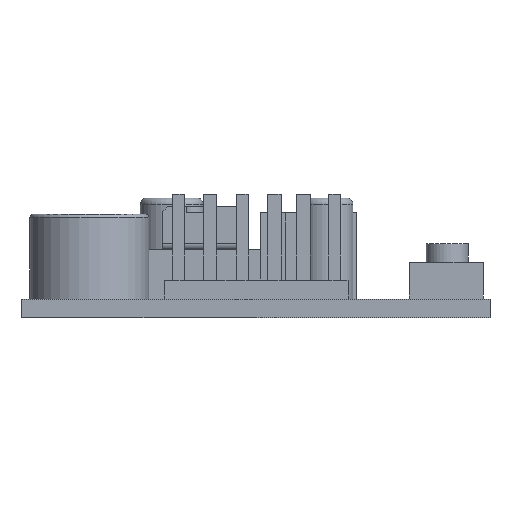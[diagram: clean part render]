
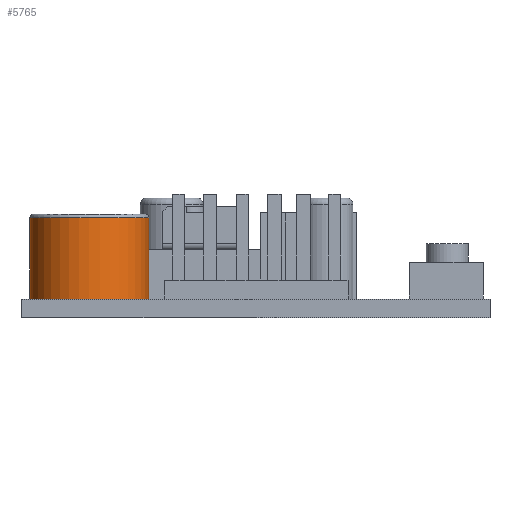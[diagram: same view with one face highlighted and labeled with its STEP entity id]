
A CAD part, front view. The second image highlights one B-rep face of the part: STEP entity #5765.
In plain terms, the highlighted cylindrical face has radius 4.83 mm (diameter 9.659 mm), a full revolution.
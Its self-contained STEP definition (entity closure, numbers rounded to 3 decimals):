
#1319 = PLANE('',#1320);
#1320 = AXIS2_PLACEMENT_3D('',#1321,#1322,#1323);
#1321 = CARTESIAN_POINT('',(0.,21.,1.5));
#1322 = DIRECTION('',(0.,0.,-1.));
#1323 = DIRECTION('',(-1.,0.,0.));
#2801 = EDGE_CURVE('',#2802,#2802,#2804,.T.);
#2802 = VERTEX_POINT('',#2803);
#2803 = CARTESIAN_POINT('',(-8.707,11.958,1.5));
#2804 = SURFACE_CURVE('',#2805,(#2810,#2821),.PCURVE_S1.);
#2805 = CIRCLE('',#2806,4.83);
#2806 = AXIS2_PLACEMENT_3D('',#2807,#2808,#2809);
#2807 = CARTESIAN_POINT('',(-13.537,11.958,1.5));
#2808 = DIRECTION('',(0.,0.,1.));
#2809 = DIRECTION('',(1.,0.,0.));
#2810 = PCURVE('',#1319,#2811);
#2811 = DEFINITIONAL_REPRESENTATION('',(#2812),#2820);
#2812 = ( BOUNDED_CURVE() B_SPLINE_CURVE(2,(#2813,#2814,#2815,#2816,
#2817,#2818,#2819),.UNSPECIFIED.,.T.,.F.) B_SPLINE_CURVE_WITH_KNOTS((1,2
    ,2,2,2,1),(-2.094,0.,2.094,4.189,
6.283,8.378),.UNSPECIFIED.) CURVE() 
GEOMETRIC_REPRESENTATION_ITEM() RATIONAL_B_SPLINE_CURVE((1.,0.5,1.,0.5,
1.,0.5,1.)) REPRESENTATION_ITEM('') );
#2813 = CARTESIAN_POINT('',(8.707,-9.042));
#2814 = CARTESIAN_POINT('',(8.707,-0.676));
#2815 = CARTESIAN_POINT('',(15.952,-4.859));
#2816 = CARTESIAN_POINT('',(23.197,-9.042));
#2817 = CARTESIAN_POINT('',(15.952,-13.224));
#2818 = CARTESIAN_POINT('',(8.707,-17.407));
#2819 = CARTESIAN_POINT('',(8.707,-9.042));
#2820 = ( GEOMETRIC_REPRESENTATION_CONTEXT(2) 
PARAMETRIC_REPRESENTATION_CONTEXT() REPRESENTATION_CONTEXT('2D SPACE',''
  ) );
#2821 = PCURVE('',#2822,#2827);
#2822 = CYLINDRICAL_SURFACE('',#2823,4.83);
#2823 = AXIS2_PLACEMENT_3D('',#2824,#2825,#2826);
#2824 = CARTESIAN_POINT('',(-13.537,11.958,1.5));
#2825 = DIRECTION('',(0.,0.,-1.));
#2826 = DIRECTION('',(1.,0.,0.));
#2827 = DEFINITIONAL_REPRESENTATION('',(#2828),#2832);
#2828 = LINE('',#2829,#2830);
#2829 = CARTESIAN_POINT('',(6.283,0.));
#2830 = VECTOR('',#2831,1.);
#2831 = DIRECTION('',(-1.,0.));
#2832 = ( GEOMETRIC_REPRESENTATION_CONTEXT(2) 
PARAMETRIC_REPRESENTATION_CONTEXT() REPRESENTATION_CONTEXT('2D SPACE',''
  ) );
#5765 = ADVANCED_FACE('',(#5766),#2822,.T.);
#5766 = FACE_BOUND('',#5767,.T.);
#5767 = EDGE_LOOP('',(#5768,#5797,#5818,#5819));
#5768 = ORIENTED_EDGE('',*,*,#5769,.F.);
#5769 = EDGE_CURVE('',#5770,#5770,#5772,.T.);
#5770 = VERTEX_POINT('',#5771);
#5771 = CARTESIAN_POINT('',(-8.707,11.958,8.1));
#5772 = SURFACE_CURVE('',#5773,(#5778,#5785),.PCURVE_S1.);
#5773 = CIRCLE('',#5774,4.83);
#5774 = AXIS2_PLACEMENT_3D('',#5775,#5776,#5777);
#5775 = CARTESIAN_POINT('',(-13.537,11.958,8.1));
#5776 = DIRECTION('',(0.,0.,1.));
#5777 = DIRECTION('',(1.,0.,0.));
#5778 = PCURVE('',#2822,#5779);
#5779 = DEFINITIONAL_REPRESENTATION('',(#5780),#5784);
#5780 = LINE('',#5781,#5782);
#5781 = CARTESIAN_POINT('',(6.283,-6.6));
#5782 = VECTOR('',#5783,1.);
#5783 = DIRECTION('',(-1.,0.));
#5784 = ( GEOMETRIC_REPRESENTATION_CONTEXT(2) 
PARAMETRIC_REPRESENTATION_CONTEXT() REPRESENTATION_CONTEXT('2D SPACE',''
  ) );
#5785 = PCURVE('',#5786,#5791);
#5786 = TOROIDAL_SURFACE('',#5787,4.53,0.3);
#5787 = AXIS2_PLACEMENT_3D('',#5788,#5789,#5790);
#5788 = CARTESIAN_POINT('',(-13.537,11.958,8.1));
#5789 = DIRECTION('',(0.,0.,1.));
#5790 = DIRECTION('',(1.,0.,0.));
#5791 = DEFINITIONAL_REPRESENTATION('',(#5792),#5796);
#5792 = LINE('',#5793,#5794);
#5793 = CARTESIAN_POINT('',(0.,0.));
#5794 = VECTOR('',#5795,1.);
#5795 = DIRECTION('',(1.,0.));
#5796 = ( GEOMETRIC_REPRESENTATION_CONTEXT(2) 
PARAMETRIC_REPRESENTATION_CONTEXT() REPRESENTATION_CONTEXT('2D SPACE',''
  ) );
#5797 = ORIENTED_EDGE('',*,*,#5798,.F.);
#5798 = EDGE_CURVE('',#2802,#5770,#5799,.T.);
#5799 = SEAM_CURVE('',#5800,(#5804,#5811),.PCURVE_S1.);
#5800 = LINE('',#5801,#5802);
#5801 = CARTESIAN_POINT('',(-8.707,11.958,1.5));
#5802 = VECTOR('',#5803,1.);
#5803 = DIRECTION('',(0.,0.,1.));
#5804 = PCURVE('',#2822,#5805);
#5805 = DEFINITIONAL_REPRESENTATION('',(#5806),#5810);
#5806 = LINE('',#5807,#5808);
#5807 = CARTESIAN_POINT('',(6.283,0.));
#5808 = VECTOR('',#5809,1.);
#5809 = DIRECTION('',(0.,-1.));
#5810 = ( GEOMETRIC_REPRESENTATION_CONTEXT(2) 
PARAMETRIC_REPRESENTATION_CONTEXT() REPRESENTATION_CONTEXT('2D SPACE',''
  ) );
#5811 = PCURVE('',#2822,#5812);
#5812 = DEFINITIONAL_REPRESENTATION('',(#5813),#5817);
#5813 = LINE('',#5814,#5815);
#5814 = CARTESIAN_POINT('',(0.,0.));
#5815 = VECTOR('',#5816,1.);
#5816 = DIRECTION('',(0.,-1.));
#5817 = ( GEOMETRIC_REPRESENTATION_CONTEXT(2) 
PARAMETRIC_REPRESENTATION_CONTEXT() REPRESENTATION_CONTEXT('2D SPACE',''
  ) );
#5818 = ORIENTED_EDGE('',*,*,#2801,.T.);
#5819 = ORIENTED_EDGE('',*,*,#5798,.T.);
